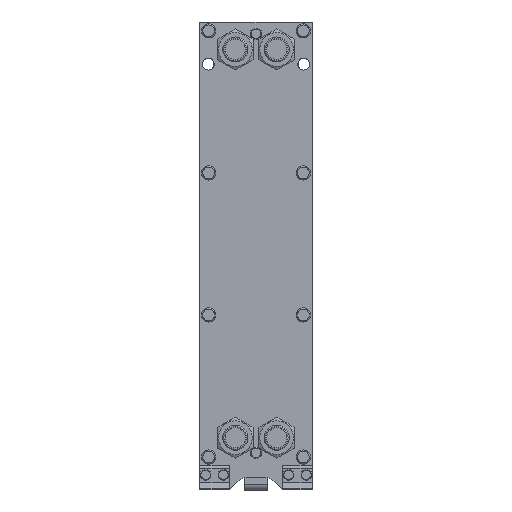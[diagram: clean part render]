
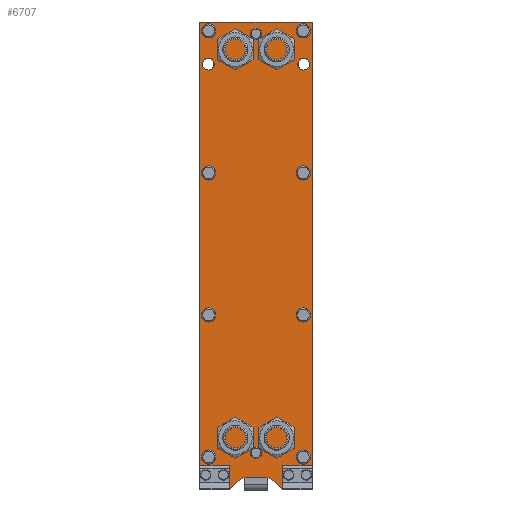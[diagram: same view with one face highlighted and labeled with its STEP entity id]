
A CAD part, top view. The second image highlights one B-rep face of the part: STEP entity #6707.
In plain terms, the highlighted planar face has unit normal (0, 0, 1).
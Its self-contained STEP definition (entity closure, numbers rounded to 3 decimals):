
#356=FACE_BOUND('',#2223,.T.);
#357=FACE_BOUND('',#2224,.T.);
#358=FACE_BOUND('',#2225,.T.);
#359=FACE_BOUND('',#2226,.T.);
#360=FACE_BOUND('',#2227,.T.);
#361=FACE_BOUND('',#2228,.T.);
#362=FACE_BOUND('',#2229,.T.);
#363=FACE_BOUND('',#2230,.T.);
#364=FACE_BOUND('',#2231,.T.);
#365=FACE_BOUND('',#2232,.T.);
#366=FACE_BOUND('',#2233,.T.);
#367=FACE_BOUND('',#2234,.T.);
#609=LINE('',#11894,#1163);
#611=LINE('',#11900,#1165);
#614=LINE('',#11909,#1168);
#615=LINE('',#11912,#1169);
#616=LINE('',#11914,#1170);
#617=LINE('',#11916,#1171);
#618=LINE('',#11917,#1172);
#619=LINE('',#11918,#1173);
#1163=VECTOR('',#8156,1.);
#1165=VECTOR('',#8160,1.);
#1168=VECTOR('',#8167,1.);
#1169=VECTOR('',#8170,1.);
#1170=VECTOR('',#8171,1.);
#1171=VECTOR('',#8172,1.);
#1172=VECTOR('',#8173,1.);
#1173=VECTOR('',#8174,1.);
#1788=FACE_OUTER_BOUND('',#2222,.T.);
#2222=EDGE_LOOP('',(#4838,#4839,#4840,#4841,#4842,#4843,#4844,#4845,#4846,
#4847));
#2223=EDGE_LOOP('',(#4848));
#2224=EDGE_LOOP('',(#4849));
#2225=EDGE_LOOP('',(#4850));
#2226=EDGE_LOOP('',(#4851));
#2227=EDGE_LOOP('',(#4852));
#2228=EDGE_LOOP('',(#4853));
#2229=EDGE_LOOP('',(#4854));
#2230=EDGE_LOOP('',(#4855));
#2231=EDGE_LOOP('',(#4856));
#2232=EDGE_LOOP('',(#4857));
#2233=EDGE_LOOP('',(#4858));
#2234=EDGE_LOOP('',(#4859));
#2726=CIRCLE('',#7234,20.);
#2727=CIRCLE('',#7235,20.);
#2728=CIRCLE('',#7236,8.5);
#2729=CIRCLE('',#7237,8.5);
#2730=CIRCLE('',#7238,9.);
#2731=CIRCLE('',#7239,9.);
#2732=CIRCLE('',#7240,9.);
#2733=CIRCLE('',#7241,9.);
#2734=CIRCLE('',#7242,9.);
#2735=CIRCLE('',#7243,9.);
#2736=CIRCLE('',#7244,9.);
#2737=CIRCLE('',#7245,9.);
#2738=CIRCLE('',#7246,10.);
#2739=CIRCLE('',#7247,10.);
#3078=VERTEX_POINT('',#11887);
#3081=VERTEX_POINT('',#11892);
#3083=VERTEX_POINT('',#11897);
#3084=VERTEX_POINT('',#11899);
#3086=VERTEX_POINT('',#11905);
#3087=VERTEX_POINT('',#11906);
#3088=VERTEX_POINT('',#11908);
#3089=VERTEX_POINT('',#11910);
#3090=VERTEX_POINT('',#11913);
#3091=VERTEX_POINT('',#11915);
#3092=VERTEX_POINT('',#11919);
#3093=VERTEX_POINT('',#11921);
#3094=VERTEX_POINT('',#11923);
#3095=VERTEX_POINT('',#11925);
#3096=VERTEX_POINT('',#11927);
#3097=VERTEX_POINT('',#11929);
#3098=VERTEX_POINT('',#11931);
#3099=VERTEX_POINT('',#11933);
#3100=VERTEX_POINT('',#11935);
#3101=VERTEX_POINT('',#11937);
#3102=VERTEX_POINT('',#11939);
#3103=VERTEX_POINT('',#11941);
#3747=EDGE_CURVE('',#3081,#3078,#609,.T.);
#3749=EDGE_CURVE('',#3083,#3084,#611,.T.);
#3752=EDGE_CURVE('',#3086,#3087,#2726,.F.);
#3753=EDGE_CURVE('',#3086,#3088,#614,.T.);
#3754=EDGE_CURVE('',#3089,#3088,#2727,.F.);
#3755=EDGE_CURVE('',#3089,#3078,#615,.T.);
#3756=EDGE_CURVE('',#3090,#3081,#616,.T.);
#3757=EDGE_CURVE('',#3091,#3090,#617,.T.);
#3758=EDGE_CURVE('',#3084,#3091,#618,.T.);
#3759=EDGE_CURVE('',#3083,#3087,#619,.T.);
#3760=EDGE_CURVE('',#3092,#3092,#2728,.T.);
#3761=EDGE_CURVE('',#3093,#3093,#2729,.T.);
#3762=EDGE_CURVE('',#3094,#3094,#2730,.T.);
#3763=EDGE_CURVE('',#3095,#3095,#2731,.T.);
#3764=EDGE_CURVE('',#3096,#3096,#2732,.T.);
#3765=EDGE_CURVE('',#3097,#3097,#2733,.T.);
#3766=EDGE_CURVE('',#3098,#3098,#2734,.T.);
#3767=EDGE_CURVE('',#3099,#3099,#2735,.T.);
#3768=EDGE_CURVE('',#3100,#3100,#2736,.T.);
#3769=EDGE_CURVE('',#3101,#3101,#2737,.T.);
#3770=EDGE_CURVE('',#3102,#3102,#2738,.T.);
#3771=EDGE_CURVE('',#3103,#3103,#2739,.T.);
#4838=ORIENTED_EDGE('',*,*,#3752,.F.);
#4839=ORIENTED_EDGE('',*,*,#3753,.T.);
#4840=ORIENTED_EDGE('',*,*,#3754,.F.);
#4841=ORIENTED_EDGE('',*,*,#3755,.T.);
#4842=ORIENTED_EDGE('',*,*,#3747,.F.);
#4843=ORIENTED_EDGE('',*,*,#3756,.F.);
#4844=ORIENTED_EDGE('',*,*,#3757,.F.);
#4845=ORIENTED_EDGE('',*,*,#3758,.F.);
#4846=ORIENTED_EDGE('',*,*,#3749,.F.);
#4847=ORIENTED_EDGE('',*,*,#3759,.T.);
#4848=ORIENTED_EDGE('',*,*,#3760,.T.);
#4849=ORIENTED_EDGE('',*,*,#3761,.T.);
#4850=ORIENTED_EDGE('',*,*,#3762,.T.);
#4851=ORIENTED_EDGE('',*,*,#3763,.T.);
#4852=ORIENTED_EDGE('',*,*,#3764,.T.);
#4853=ORIENTED_EDGE('',*,*,#3765,.T.);
#4854=ORIENTED_EDGE('',*,*,#3766,.T.);
#4855=ORIENTED_EDGE('',*,*,#3767,.T.);
#4856=ORIENTED_EDGE('',*,*,#3768,.T.);
#4857=ORIENTED_EDGE('',*,*,#3769,.T.);
#4858=ORIENTED_EDGE('',*,*,#3770,.T.);
#4859=ORIENTED_EDGE('',*,*,#3771,.T.);
#6410=PLANE('',#7233);
#6707=ADVANCED_FACE('',(#1788,#356,#357,#358,#359,#360,#361,#362,#363,#364,
#365,#366,#367),#6410,.F.);
#7233=AXIS2_PLACEMENT_3D('',#11904,#8163,#8164);
#7234=AXIS2_PLACEMENT_3D('',#11907,#8165,#8166);
#7235=AXIS2_PLACEMENT_3D('',#11911,#8168,#8169);
#7236=AXIS2_PLACEMENT_3D('',#11920,#8175,#8176);
#7237=AXIS2_PLACEMENT_3D('',#11922,#8177,#8178);
#7238=AXIS2_PLACEMENT_3D('',#11924,#8179,#8180);
#7239=AXIS2_PLACEMENT_3D('',#11926,#8181,#8182);
#7240=AXIS2_PLACEMENT_3D('',#11928,#8183,#8184);
#7241=AXIS2_PLACEMENT_3D('',#11930,#8185,#8186);
#7242=AXIS2_PLACEMENT_3D('',#11932,#8187,#8188);
#7243=AXIS2_PLACEMENT_3D('',#11934,#8189,#8190);
#7244=AXIS2_PLACEMENT_3D('',#11936,#8191,#8192);
#7245=AXIS2_PLACEMENT_3D('',#11938,#8193,#8194);
#7246=AXIS2_PLACEMENT_3D('',#11940,#8195,#8196);
#7247=AXIS2_PLACEMENT_3D('',#11942,#8197,#8198);
#8156=DIRECTION('',(-1.,0.,0.));
#8160=DIRECTION('',(-1.,0.,0.));
#8163=DIRECTION('center_axis',(0.,0.,
-1.));
#8164=DIRECTION('ref_axis',(1.,0.,0.));
#8165=DIRECTION('center_axis',(0.,0.,
-1.));
#8166=DIRECTION('ref_axis',(-0.707,0.707,0.));
#8167=DIRECTION('',(1.,0.,0.));
#8168=DIRECTION('center_axis',(0.,0.,
-1.));
#8169=DIRECTION('ref_axis',(0.,1.,0.));
#8170=DIRECTION('',(0.707,-0.707,0.));
#8171=DIRECTION('',(0.,-1.,0.));
#8172=DIRECTION('',(1.,0.,0.));
#8173=DIRECTION('',(0.,1.,0.));
#8174=DIRECTION('',(0.707,0.707,0.));
#8175=DIRECTION('center_axis',(0.,0.,
-1.));
#8176=DIRECTION('ref_axis',(-1.,0.,0.));
#8177=DIRECTION('center_axis',(0.,0.,
-1.));
#8178=DIRECTION('ref_axis',(-1.,0.,0.));
#8179=DIRECTION('center_axis',(0.,0.,
-1.));
#8180=DIRECTION('ref_axis',(1.,0.,0.));
#8181=DIRECTION('center_axis',(0.,0.,
-1.));
#8182=DIRECTION('ref_axis',(1.,0.,0.));
#8183=DIRECTION('center_axis',(0.,0.,
-1.));
#8184=DIRECTION('ref_axis',(1.,0.,0.));
#8185=DIRECTION('center_axis',(0.,0.,
-1.));
#8186=DIRECTION('ref_axis',(1.,0.,0.));
#8187=DIRECTION('center_axis',(0.,0.,
-1.));
#8188=DIRECTION('ref_axis',(-1.,0.,0.));
#8189=DIRECTION('center_axis',(0.,0.,
-1.));
#8190=DIRECTION('ref_axis',(-1.,0.,0.));
#8191=DIRECTION('center_axis',(0.,0.,
-1.));
#8192=DIRECTION('ref_axis',(-1.,0.,0.));
#8193=DIRECTION('center_axis',(0.,0.,
-1.));
#8194=DIRECTION('ref_axis',(-1.,0.,0.));
#8195=DIRECTION('center_axis',(0.,0.,
-1.));
#8196=DIRECTION('ref_axis',(-1.,0.,0.));
#8197=DIRECTION('center_axis',(0.,0.,
-1.));
#8198=DIRECTION('ref_axis',(1.,0.,0.));
#11887=CARTESIAN_POINT('',(45.,0.,20.));
#11892=CARTESIAN_POINT('',(95.,0.,20.));
#11894=CARTESIAN_POINT('',(95.,0.,20.));
#11897=CARTESIAN_POINT('',(-45.,0.,20.));
#11899=CARTESIAN_POINT('',(-95.,0.,20.));
#11900=CARTESIAN_POINT('',(-45.,0.,20.));
#11904=CARTESIAN_POINT('Origin',(0.,395.,20.));
#11905=CARTESIAN_POINT('',(-16.695,20.02,20.));
#11906=CARTESIAN_POINT('',(-30.837,14.163,20.));
#11907=CARTESIAN_POINT('Origin',(-16.695,0.02,20.));
#11908=CARTESIAN_POINT('',(16.695,20.02,20.));
#11909=CARTESIAN_POINT('',(-16.695,20.02,20.));
#11910=CARTESIAN_POINT('',(30.837,14.163,20.));
#11911=CARTESIAN_POINT('Origin',(16.695,0.02,20.));
#11912=CARTESIAN_POINT('',(30.837,14.163,20.));
#11913=CARTESIAN_POINT('',(95.,790.,20.));
#11914=CARTESIAN_POINT('',(95.,790.,20.));
#11915=CARTESIAN_POINT('',(-95.,790.,20.));
#11916=CARTESIAN_POINT('',(-95.,790.,20.));
#11917=CARTESIAN_POINT('',(-95.,0.,20.));
#11918=CARTESIAN_POINT('',(-45.,0.,20.));
#11919=CARTESIAN_POINT('',(8.5,770.,20.));
#11920=CARTESIAN_POINT('Origin',(0.,770.,20.));
#11921=CARTESIAN_POINT('',(8.5,62.,20.));
#11922=CARTESIAN_POINT('Origin',(0.,62.,20.));
#11923=CARTESIAN_POINT('',(-89.,775.,20.));
#11924=CARTESIAN_POINT('Origin',(-80.,775.,20.));
#11925=CARTESIAN_POINT('',(-89.,535.,20.));
#11926=CARTESIAN_POINT('Origin',(-80.,535.,20.));
#11927=CARTESIAN_POINT('',(-89.,295.,20.));
#11928=CARTESIAN_POINT('Origin',(-80.,295.,20.));
#11929=CARTESIAN_POINT('',(-89.,55.,20.));
#11930=CARTESIAN_POINT('Origin',(-80.,55.,20.));
#11931=CARTESIAN_POINT('',(89.,55.,20.));
#11932=CARTESIAN_POINT('Origin',(80.,55.,20.));
#11933=CARTESIAN_POINT('',(89.,295.,20.));
#11934=CARTESIAN_POINT('Origin',(80.,295.,20.));
#11935=CARTESIAN_POINT('',(89.,535.,20.));
#11936=CARTESIAN_POINT('Origin',(80.,535.,20.));
#11937=CARTESIAN_POINT('',(89.,775.,20.));
#11938=CARTESIAN_POINT('Origin',(80.,775.,20.));
#11939=CARTESIAN_POINT('',(90.378,718.836,20.));
#11940=CARTESIAN_POINT('Origin',(80.378,718.836,20.));
#11941=CARTESIAN_POINT('',(-90.378,718.836,20.));
#11942=CARTESIAN_POINT('Origin',(-80.378,718.836,20.));
